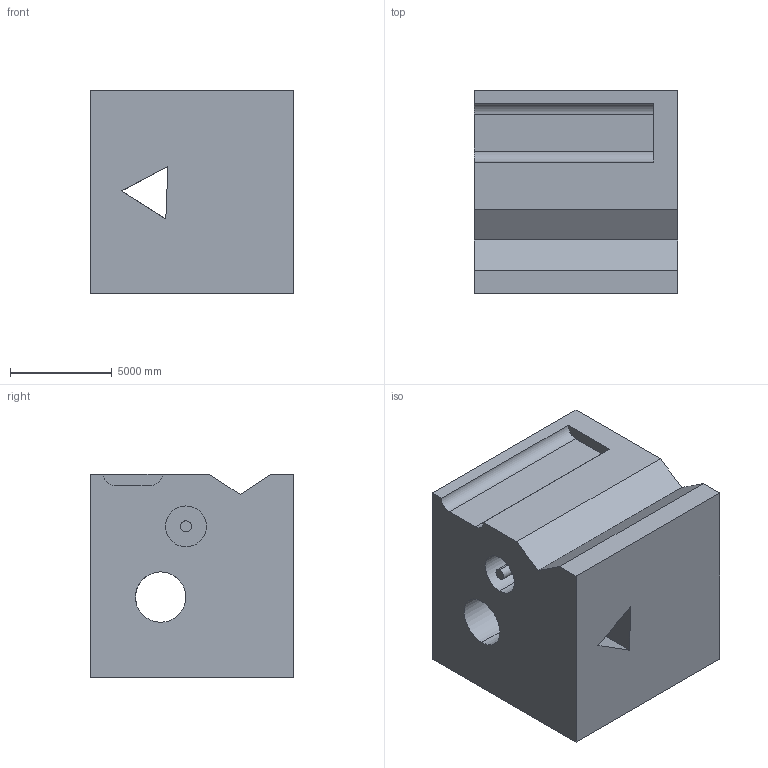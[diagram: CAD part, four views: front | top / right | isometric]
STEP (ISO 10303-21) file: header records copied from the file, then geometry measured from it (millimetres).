
FILE_DESCRIPTION (( 'STEP AP203' ), '1' );
FILE_NAME ('1487.STEP', '2022-08-18T14:46:34', ( 'user' ), ( '' ), 'SwSTEP 2.0', 'SolidWorks 2021', '' );
FILE_SCHEMA (( 'CONFIG_CONTROL_DESIGN' ));
Length unit declared in the file: centimetre
Products named in the file (1): 1487
Bounding box: 10000 x 10000 x 10000 mm (x, y, z)
Volume: 891108965364.4 mm3; surface area: 753965986 mm2
Topology: 1 solids, 1 shells, 25 faces, 69 edges, 46 vertices
Faces by surface type: plane 17, cylinder 8
Entity records: 888 total; most frequent: CARTESIAN_POINT 159, ORIENTED_EDGE 138, DIRECTION 131, EDGE_CURVE 69, VECTOR 47, LINE 47, VERTEX_POINT 46, AXIS2_PLACEMENT_3D 42
